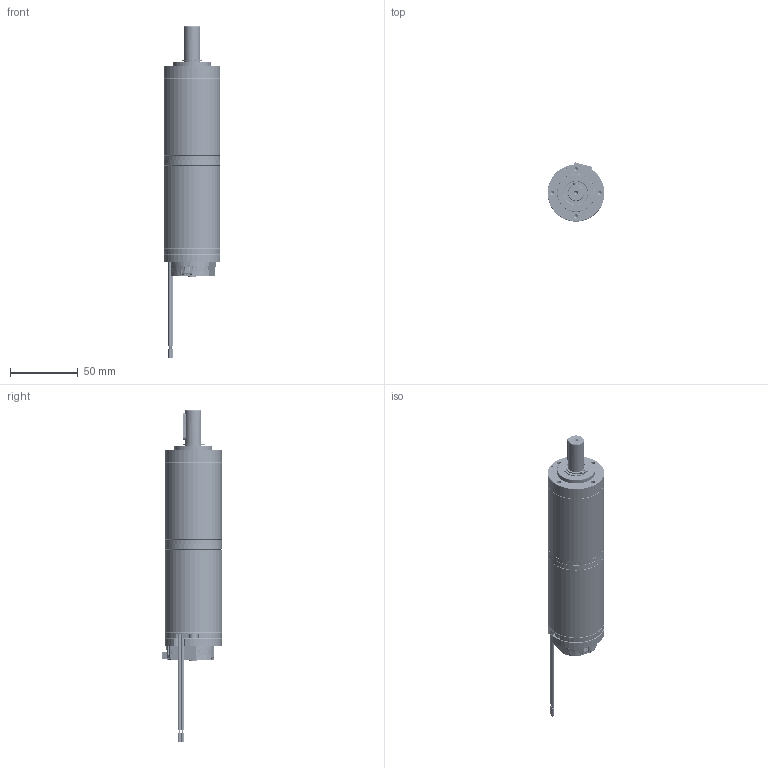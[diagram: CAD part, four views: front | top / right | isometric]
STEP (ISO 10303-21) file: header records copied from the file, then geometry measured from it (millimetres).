
FILE_DESCRIPTION (( 'STEP AP214' ), '1' );
FILE_NAME ('BRx42-25-PGx42 (3 Stage) - Diff Encoder.STEP', '2025-05-13T07:08:04', ( '' ), ( '' ), 'SwSTEP 2.0', 'SolidWorks 2023', '' );
FILE_SCHEMA (( 'AUTOMOTIVE_DESIGN' ));
Length unit declared in the file: millimetre
Products named in the file (1): BRx42-25-PGx42 (3 Stage) - Diff Encoder
Bounding box: 42 x 43.94 x 245.35 mm (x, y, z)
Volume: 143211.6 mm3; surface area: 68048.9 mm2
Topology: 27 solids, 27 shells, 7876 faces, 20902 edges, 13758 vertices
Faces by surface type: plane 5161, cylinder 1760, cone 496, bspline 227, torus 216, sphere 16
Entity records: 342928 total; most frequent: CARTESIAN_POINT 58618, ORIENTED_EDGE 41770, DIRECTION 39708, EDGE_CURVE 20885, VECTOR 14778, LINE 14778, VERTEX_POINT 13758, AXIS2_PLACEMENT_3D 12465
